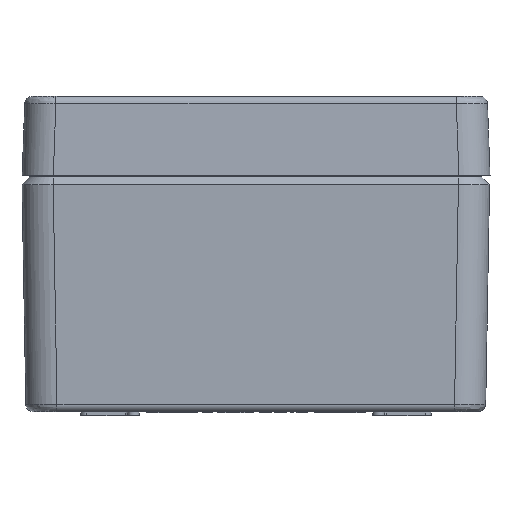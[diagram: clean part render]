
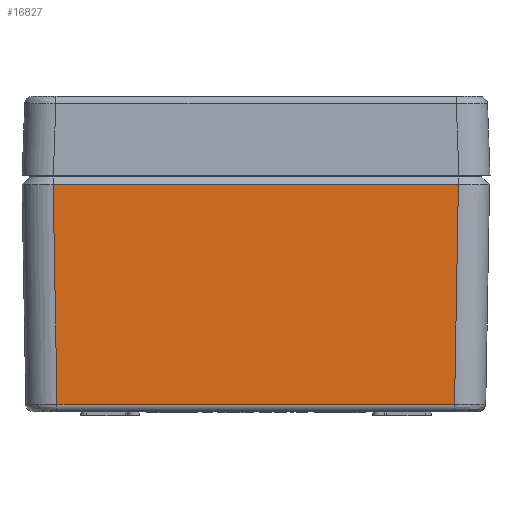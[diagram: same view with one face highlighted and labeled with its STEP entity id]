
A CAD part, left-side view. The second image highlights one B-rep face of the part: STEP entity #16827.
In plain terms, the highlighted planar face has unit normal (-1, 0, -0.018).
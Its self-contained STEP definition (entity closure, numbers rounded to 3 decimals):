
#1998 = VECTOR ( 'NONE', #38203, 1000. ) ;
#2692 = VERTEX_POINT ( 'NONE', #38962 ) ;
#3097 = FACE_OUTER_BOUND ( 'NONE', #33354, .T. ) ;
#3965 = EDGE_CURVE ( 'NONE', #2692, #9419, #11573, .T. ) ;
#8339 = EDGE_CURVE ( 'NONE', #16975, #10895, #9245, .T. ) ;
#9245 = LINE ( 'NONE', #22665, #1998 ) ;
#9419 = VERTEX_POINT ( 'NONE', #15136 ) ;
#10895 = VERTEX_POINT ( 'NONE', #59039 ) ;
#11049 = CARTESIAN_POINT ( 'NONE',  ( -108.946, 51.208, -60.3 ) ) ;
#11573 = LINE ( 'NONE', #11049, #31641 ) ;
#15136 = CARTESIAN_POINT ( 'NONE',  ( -108.981, 51.243, -58.335 ) ) ;
#15674 = DIRECTION ( 'NONE',  ( 0., 1., 0. ) ) ;
#16196 = DIRECTION ( 'NONE',  ( 0.017, -0.017, -1. ) ) ;
#16827 = ADVANCED_FACE ( 'NONE', ( #3097 ), #51751, .T. ) ;
#16975 = VERTEX_POINT ( 'NONE', #37478 ) ;
#20832 = DIRECTION ( 'NONE',  ( 0.017, 0., -1. ) ) ;
#21505 = EDGE_CURVE ( 'NONE', #10895, #9419, #63009, .T. ) ;
#22665 = CARTESIAN_POINT ( 'NONE',  ( -109.499, -51.331, -28.642 ) ) ;
#25276 = ORIENTED_EDGE ( 'NONE', *, *, #3965, .T. ) ;
#29844 = VECTOR ( 'NONE', #15674, 1000. ) ;
#30576 = ORIENTED_EDGE ( 'NONE', *, *, #47039, .T. ) ;
#31641 = VECTOR ( 'NONE', #16196, 1000. ) ;
#33354 = EDGE_LOOP ( 'NONE', ( #37794, #43943, #30576, #25276 ) ) ;
#37478 = CARTESIAN_POINT ( 'NONE',  ( -109.964, -51.796, -2. ) ) ;
#37794 = ORIENTED_EDGE ( 'NONE', *, *, #21505, .F. ) ;
#38203 = DIRECTION ( 'NONE',  ( 0.017, 0.017, -1. ) ) ;
#38962 = CARTESIAN_POINT ( 'NONE',  ( -109.964, 52.226, -2. ) ) ;
#41018 = CARTESIAN_POINT ( 'NONE',  ( -108.981, 0.215, -58.335 ) ) ;
#43616 = LINE ( 'NONE', #45834, #29844 ) ;
#43943 = ORIENTED_EDGE ( 'NONE', *, *, #8339, .F. ) ;
#45834 = CARTESIAN_POINT ( 'NONE',  ( -109.964, 0.215, -2. ) ) ;
#47039 = EDGE_CURVE ( 'NONE', #16975, #2692, #43616, .T. ) ;
#51653 = DIRECTION ( 'NONE',  ( 0., 1., 0. ) ) ;
#51751 = PLANE ( 'NONE',  #57472 ) ;
#56676 = CARTESIAN_POINT ( 'NONE',  ( -111.531, 136.767, 87.789 ) ) ;
#57472 = AXIS2_PLACEMENT_3D ( 'NONE', #56676, #61800, #20832 ) ;
#58189 = VECTOR ( 'NONE', #51653, 1000. ) ;
#59039 = CARTESIAN_POINT ( 'NONE',  ( -108.981, -50.813, -58.335 ) ) ;
#61800 = DIRECTION ( 'NONE',  ( -1., 0., -0.017 ) ) ;
#63009 = LINE ( 'NONE', #41018, #58189 ) ;
